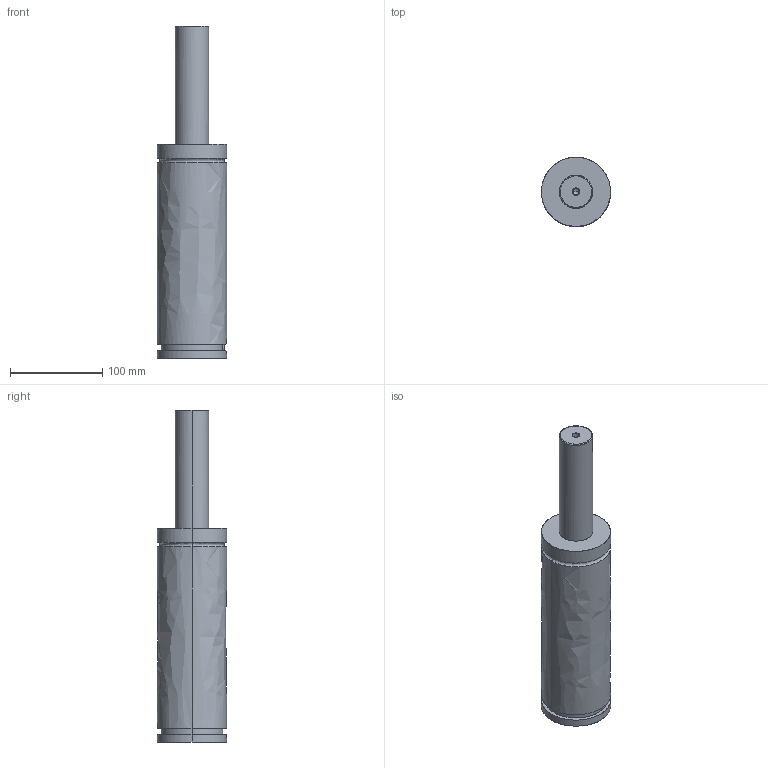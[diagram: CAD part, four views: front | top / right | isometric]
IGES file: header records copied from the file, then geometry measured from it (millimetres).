
Global section: file name: E:\UnigraphicsGraphicData\MISUMI_PRESS-PARTS\IGES\3d_gse75-125_03853_r00.igs; native system: NX V5.0; preprocessor: UGS NX IGES V5.0; author: MISUMI; date: 20110105.160800; units: millimetre
Bounding box: 75 x 75 x 360 mm (x, y, z)
Surface area: 82600.9 mm2 (no closed solid volume)
Topology: 0 solids, 0 shells, 75 faces, 606 edges, 604 vertices
Faces by surface type: bspline 75
